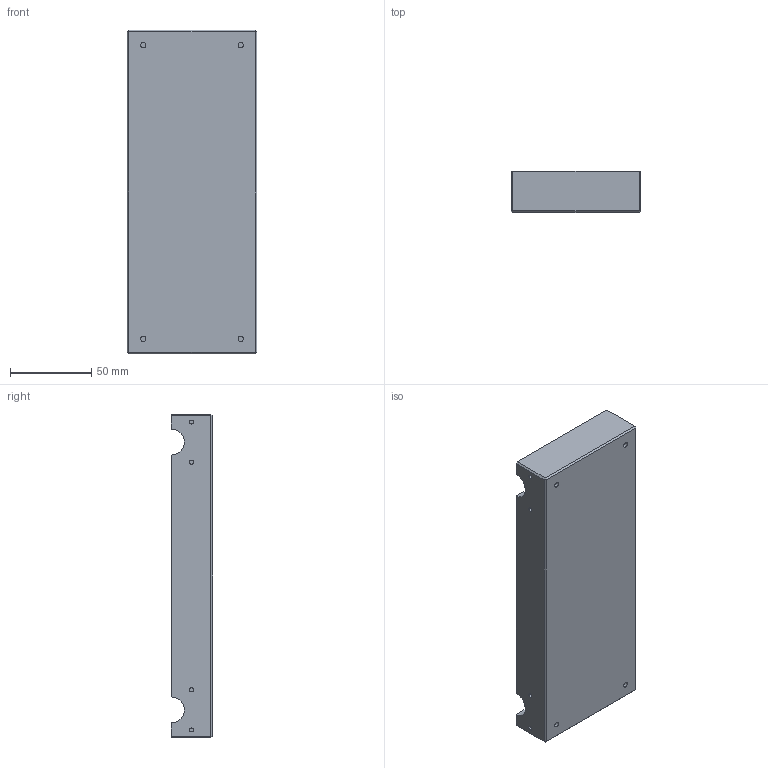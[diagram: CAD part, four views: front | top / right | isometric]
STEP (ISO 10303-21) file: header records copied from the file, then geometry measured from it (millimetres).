
FILE_DESCRIPTION(/* description */ (''),/* implementation_level */ '2;1');
FILE_NAME(/* name */ 'D:\PRJ\70cm Combiner\M-CAD\Body.stp',/* time_stamp */ '2024-12-13T13:41:36+01:00',/* author */ ('Carsten Grøn'),/* organization */ (''),/* preprocessor_version */ 'ST-DEVELOPER v18',/* originating_system */ 'Autodesk Inventor 2020',/* authorisation */ '');
FILE_SCHEMA (('AUTOMOTIVE_DESIGN { 1 0 10303 214 3 1 1 }'));
Length unit declared in the file: millimetre
Products named in the file (1): Body
Bounding box: 80.01 x 25.4 x 199.39 mm (x, y, z)
Volume: 167992.7 mm3; surface area: 57464.7 mm2
Topology: 1 solids, 1 shells, 98 faces, 253 edges, 180 vertices
Faces by surface type: plane 61, cylinder 37
Full cylindrical faces by diameter (mm): 2.459 x18, 3.242 x4, 12.8 x1
Entity records: 3146 total; most frequent: DIRECTION 571, CARTESIAN_POINT 552, ORIENTED_EDGE 506, EDGE_CURVE 253, AXIS2_PLACEMENT_3D 223, VERTEX_POINT 180, LINE 125, VECTOR 125
